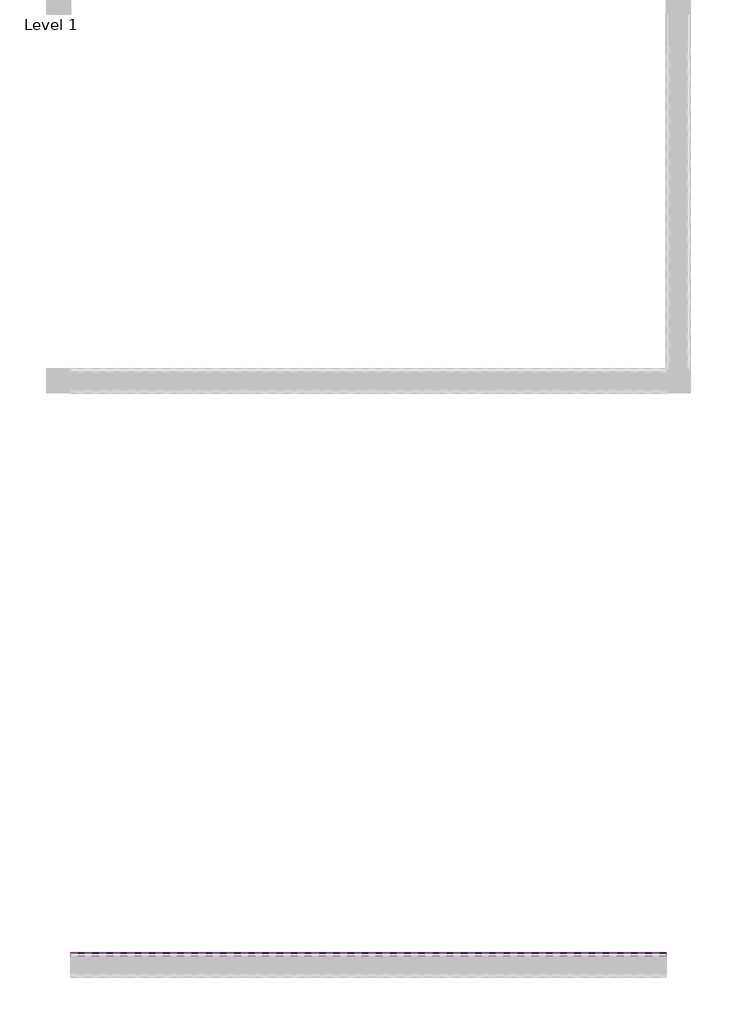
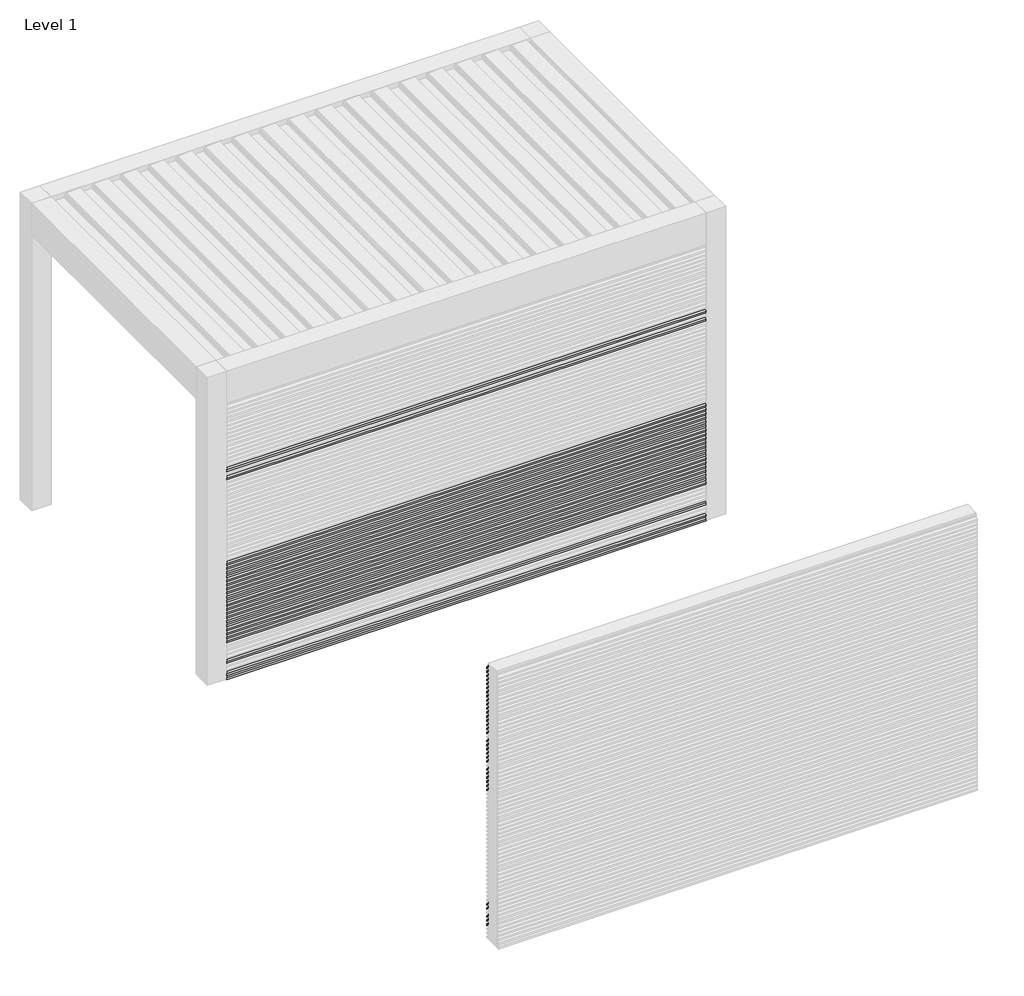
# One storey, part 64 of 69: 85 proxies.
"""IFC4 building model written with IfcOpenShell, lengths in millimetres."""

from ifc_helpers import new_model, si_unit, frame, origin, place, context, project, spatial, polyline, outline, extrude, element, save

model = new_model("IFC4")

# Units and contexts
model_context = context("Model", 3, world=origin())
ifc_project = project(units=[si_unit("LENGTHUNIT", "METRE", prefix="MILLI")], contexts=[model_context])

# Site, building, storey
site = spatial("IfcSite", under=ifc_project)
building = spatial("IfcBuilding", under=site)
storey = spatial("IfcBuildingStorey", under=building, Name="Level 1", Elevation=0.0)

# Proxies
placement = place(None, origin())
element("IfcBuildingElementProxy", 1, Name="Wall Sweeps", at=placement, inside=storey, context=model_context, shape_type="SweptSolid", body=[
    extrude(outline(polyline([(36045.8955424, 1209.2), (36045.8955424, 1195.7), (36044.6455424, 1196.4216933), (36044.6455424, 1208.4782281), (36025.4955424, 1219.5345698), (36025.4955424, 1233.2), (36026.7455424, 1233.2), (36026.7455424, 1220.2562577), (36045.8955424, 1209.2)])), frame((224550.5749426, 0.0, 0.0), z_axis=(1.0, 0.0, 0.0), x_axis=(0.0, 1.0, 0.0)), (0.0, 0.0, 1.0), 3700.0),
])
element("IfcBuildingElementProxy", 2, Name="Wall Sweeps", at=placement, inside=storey, context=model_context, shape_type="SweptSolid", body=[
    extrude(outline(polyline([(36045.8955424, 1242.5), (36045.8955424, 1229.0), (36044.6455424, 1229.7216933), (36044.6455424, 1241.7782281), (36025.4955424, 1252.8345698), (36025.4955424, 1266.5), (36026.7455424, 1266.5), (36026.7455424, 1253.5562577), (36045.8955424, 1242.5)])), frame((224550.5749426, 0.0, 0.0), z_axis=(1.0, 0.0, 0.0), x_axis=(0.0, 1.0, 0.0)), (0.0, 0.0, 1.0), 3700.0),
])
element("IfcBuildingElementProxy", 3, Name="Wall Sweeps", at=placement, inside=storey, context=model_context, shape_type="SweptSolid", body=[
    extrude(outline(polyline([(36045.8955424, 1275.9), (36045.8955424, 1262.4), (36044.6455424, 1263.1216933), (36044.6455424, 1275.1782281), (36025.4955424, 1286.2345698), (36025.4955424, 1299.9), (36026.7455424, 1299.9), (36026.7455424, 1286.9562577), (36045.8955424, 1275.9)])), frame((224550.5749426, 0.0, 0.0), z_axis=(1.0, 0.0, 0.0), x_axis=(0.0, 1.0, 0.0)), (0.0, 0.0, 1.0), 3700.0),
])
element("IfcBuildingElementProxy", 4, Name="Wall Sweeps", at=placement, inside=storey, context=model_context, shape_type="SweptSolid", body=[
    extrude(outline(polyline([(36045.8955424, 109.3), (36045.8955424, 95.8), (36044.6455424, 96.5216933), (36044.6455424, 108.5782281), (36025.4955424, 119.6345698), (36025.4955424, 133.3), (36026.7455424, 133.3), (36026.7455424, 120.3562577), (36045.8955424, 109.3)])), frame((224550.5749426, 0.0, 0.0), z_axis=(1.0, 0.0, 0.0), x_axis=(0.0, 1.0, 0.0)), (0.0, 0.0, 1.0), 3700.0),
])
element("IfcBuildingElementProxy", 5, Name="Wall Sweeps", at=placement, inside=storey, context=model_context, shape_type="SweptSolid", body=[
    extrude(outline(polyline([(36045.8955424, 1309.2), (36045.8955424, 1295.7), (36044.6455424, 1296.4216933), (36044.6455424, 1308.4782281), (36025.4955424, 1319.5345698), (36025.4955424, 1333.2), (36026.7455424, 1333.2), (36026.7455424, 1320.2562577), (36045.8955424, 1309.2)])), frame((224550.5749426, 0.0, 0.0), z_axis=(1.0, 0.0, 0.0), x_axis=(0.0, 1.0, 0.0)), (0.0, 0.0, 1.0), 3700.0),
])
element("IfcBuildingElementProxy", 6, Name="Wall Sweeps", at=placement, inside=storey, context=model_context, shape_type="SweptSolid", body=[
    extrude(outline(polyline([(36045.8955424, 1342.5), (36045.8955424, 1329.0), (36044.6455424, 1329.7216933), (36044.6455424, 1341.7782281), (36025.4955424, 1352.8345698), (36025.4955424, 1366.5), (36026.7455424, 1366.5), (36026.7455424, 1353.5562577), (36045.8955424, 1342.5)])), frame((224550.5749426, 0.0, 0.0), z_axis=(1.0, 0.0, 0.0), x_axis=(0.0, 1.0, 0.0)), (0.0, 0.0, 1.0), 3700.0),
])
element("IfcBuildingElementProxy", 7, Name="Wall Sweeps", at=placement, inside=storey, context=model_context, shape_type="SweptSolid", body=[
    extrude(outline(polyline([(36045.8955424, 1375.9), (36045.8955424, 1362.4), (36044.6455424, 1363.1216933), (36044.6455424, 1375.1782281), (36025.4955424, 1386.2345698), (36025.4955424, 1399.9), (36026.7455424, 1399.9), (36026.7455424, 1386.9562577), (36045.8955424, 1375.9)])), frame((224550.5749426, 0.0, 0.0), z_axis=(1.0, 0.0, 0.0), x_axis=(0.0, 1.0, 0.0)), (0.0, 0.0, 1.0), 3700.0),
])
element("IfcBuildingElementProxy", 8, Name="Wall Sweeps", at=placement, inside=storey, context=model_context, shape_type="SweptSolid", body=[
    extrude(outline(polyline([(36045.8955424, 1442.5), (36045.8955424, 1429.0), (36044.6455424, 1429.7216933), (36044.6455424, 1441.7782281), (36025.4955424, 1452.8345698), (36025.4955424, 1466.5), (36026.7455424, 1466.5), (36026.7455424, 1453.5562577), (36045.8955424, 1442.5)])), frame((224550.5749426, 0.0, 0.0), z_axis=(1.0, 0.0, 0.0), x_axis=(0.0, 1.0, 0.0)), (0.0, 0.0, 1.0), 3700.0),
])
element("IfcBuildingElementProxy", 9, Name="Wall Sweeps", at=placement, inside=storey, context=model_context, shape_type="SweptSolid", body=[
    extrude(outline(polyline([(36045.8955424, 1474.5), (36045.8955424, 1461.0), (36044.6455424, 1461.7216933), (36044.6455424, 1473.7782281), (36025.4955424, 1484.8345698), (36025.4955424, 1498.5), (36026.7455424, 1498.5), (36026.7455424, 1485.5562577), (36045.8955424, 1474.5)])), frame((224550.5749426, 0.0, 0.0), z_axis=(1.0, 0.0, 0.0), x_axis=(0.0, 1.0, 0.0)), (0.0, 0.0, 1.0), 3700.0),
])
element("IfcBuildingElementProxy", 10, Name="Wall Sweeps", at=placement, inside=storey, context=model_context, shape_type="SweptSolid", body=[
    extrude(outline(polyline([(36045.8955424, 1507.8), (36045.8955424, 1494.3), (36044.6455424, 1495.0216933), (36044.6455424, 1507.0782281), (36025.4955424, 1518.1345698), (36025.4955424, 1531.8), (36026.7455424, 1531.8), (36026.7455424, 1518.8562577), (36045.8955424, 1507.8)])), frame((224550.5749426, 0.0, 0.0), z_axis=(1.0, 0.0, 0.0), x_axis=(0.0, 1.0, 0.0)), (0.0, 0.0, 1.0), 3700.0),
])
element("IfcBuildingElementProxy", 11, Name="Wall Sweeps", at=placement, inside=storey, context=model_context, shape_type="SweptSolid", body=[
    extrude(outline(polyline([(36045.8955424, 1541.1), (36045.8955424, 1527.6), (36044.6455424, 1528.3216933), (36044.6455424, 1540.3782281), (36025.4955424, 1551.4345698), (36025.4955424, 1565.1), (36026.7455424, 1565.1), (36026.7455424, 1552.1562577), (36045.8955424, 1541.1)])), frame((224550.5749426, 0.0, 0.0), z_axis=(1.0, 0.0, 0.0), x_axis=(0.0, 1.0, 0.0)), (0.0, 0.0, 1.0), 3700.0),
])
element("IfcBuildingElementProxy", 12, Name="Wall Sweeps", at=placement, inside=storey, context=model_context, shape_type="SweptSolid", body=[
    extrude(outline(polyline([(36045.8955424, 1574.4), (36045.8955424, 1560.9), (36044.6455424, 1561.6216933), (36044.6455424, 1573.6782281), (36025.4955424, 1584.7345698), (36025.4955424, 1598.4), (36026.7455424, 1598.4), (36026.7455424, 1585.4562577), (36045.8955424, 1574.4)])), frame((224550.5749426, 0.0, 0.0), z_axis=(1.0, 0.0, 0.0), x_axis=(0.0, 1.0, 0.0)), (0.0, 0.0, 1.0), 3700.0),
])
element("IfcBuildingElementProxy", 13, Name="Wall Sweeps", at=placement, inside=storey, context=model_context, shape_type="SweptSolid", body=[
    extrude(outline(polyline([(36045.8955424, 1607.7), (36045.8955424, 1594.2), (36044.6455424, 1594.9216933), (36044.6455424, 1606.9782281), (36025.4955424, 1618.0345698), (36025.4955424, 1631.7), (36026.7455424, 1631.7), (36026.7455424, 1618.7562577), (36045.8955424, 1607.7)])), frame((224550.5749426, 0.0, 0.0), z_axis=(1.0, 0.0, 0.0), x_axis=(0.0, 1.0, 0.0)), (0.0, 0.0, 1.0), 3700.0),
])
element("IfcBuildingElementProxy", 14, Name="Wall Sweeps", at=placement, inside=storey, context=model_context, shape_type="SweptSolid", body=[
    extrude(outline(polyline([(36045.8955424, 142.7), (36045.8955424, 129.2), (36044.6455424, 129.9216933), (36044.6455424, 141.9782281), (36025.4955424, 153.0345698), (36025.4955424, 166.7), (36026.7455424, 166.7), (36026.7455424, 153.7562577), (36045.8955424, 142.7)])), frame((224550.5749426, 0.0, 0.0), z_axis=(1.0, 0.0, 0.0), x_axis=(0.0, 1.0, 0.0)), (0.0, 0.0, 1.0), 3700.0),
])
element("IfcBuildingElementProxy", 15, Name="Wall Sweeps", at=placement, inside=storey, context=model_context, shape_type="SweptSolid", body=[
    extrude(outline(polyline([(36045.8955424, 1674.3), (36045.8955424, 1660.8), (36044.6455424, 1661.5216933), (36044.6455424, 1673.5782281), (36025.4955424, 1684.6345698), (36025.4955424, 1698.3), (36026.7455424, 1698.3), (36026.7455424, 1685.3562577), (36045.8955424, 1674.3)])), frame((224550.5749426, 0.0, 0.0), z_axis=(1.0, 0.0, 0.0), x_axis=(0.0, 1.0, 0.0)), (0.0, 0.0, 1.0), 3700.0),
])
element("IfcBuildingElementProxy", 16, Name="Wall Sweeps", at=placement, inside=storey, context=model_context, shape_type="SweptSolid", body=[
    extrude(outline(polyline([(36045.8955424, 1707.7), (36045.8955424, 1694.2), (36044.6455424, 1694.9216933), (36044.6455424, 1706.9782281), (36025.4955424, 1718.0345698), (36025.4955424, 1731.7), (36026.7455424, 1731.7), (36026.7455424, 1718.7562577), (36045.8955424, 1707.7)])), frame((224550.5749426, 0.0, 0.0), z_axis=(1.0, 0.0, 0.0), x_axis=(0.0, 1.0, 0.0)), (0.0, 0.0, 1.0), 3700.0),
])
element("IfcBuildingElementProxy", 17, Name="Wall Sweeps", at=placement, inside=storey, context=model_context, shape_type="SweptSolid", body=[
    extrude(outline(polyline([(36045.8955424, 1740.9), (36045.8955424, 1727.4), (36044.6455424, 1728.1216933), (36044.6455424, 1740.1782281), (36025.4955424, 1751.2345698), (36025.4955424, 1764.9), (36026.7455424, 1764.9), (36026.7455424, 1751.9562577), (36045.8955424, 1740.9)])), frame((224550.5749426, 0.0, 0.0), z_axis=(1.0, 0.0, 0.0), x_axis=(0.0, 1.0, 0.0)), (0.0, 0.0, 1.0), 3700.0),
])
element("IfcBuildingElementProxy", 18, Name="Wall Sweeps", at=placement, inside=storey, context=model_context, shape_type="SweptSolid", body=[
    extrude(outline(polyline([(36045.8955424, 1774.2), (36045.8955424, 1760.7), (36044.6455424, 1761.4216933), (36044.6455424, 1773.4782281), (36025.4955424, 1784.5345698), (36025.4955424, 1798.2), (36026.7455424, 1798.2), (36026.7455424, 1785.2562577), (36045.8955424, 1774.2)])), frame((224550.5749426, 0.0, 0.0), z_axis=(1.0, 0.0, 0.0), x_axis=(0.0, 1.0, 0.0)), (0.0, 0.0, 1.0), 3700.0),
])
element("IfcBuildingElementProxy", 19, Name="Wall Sweeps", at=placement, inside=storey, context=model_context, shape_type="SweptSolid", body=[
    extrude(outline(polyline([(36045.8955424, 1807.5), (36045.8955424, 1794.0), (36044.6455424, 1794.7216933), (36044.6455424, 1806.7782281), (36025.4955424, 1817.8345698), (36025.4955424, 1831.5), (36026.7455424, 1831.5), (36026.7455424, 1818.5562577), (36045.8955424, 1807.5)])), frame((224550.5749426, 0.0, 0.0), z_axis=(1.0, 0.0, 0.0), x_axis=(0.0, 1.0, 0.0)), (0.0, 0.0, 1.0), 3700.0),
])
element("IfcBuildingElementProxy", 20, Name="Wall Sweeps", at=placement, inside=storey, context=model_context, shape_type="SweptSolid", body=[
    extrude(outline(polyline([(36045.8955424, 1840.8), (36045.8955424, 1827.3), (36044.6455424, 1828.0216933), (36044.6455424, 1840.0782281), (36025.4955424, 1851.1345698), (36025.4955424, 1864.8), (36026.7455424, 1864.8), (36026.7455424, 1851.8562577), (36045.8955424, 1840.8)])), frame((224550.5749426, 0.0, 0.0), z_axis=(1.0, 0.0, 0.0), x_axis=(0.0, 1.0, 0.0)), (0.0, 0.0, 1.0), 3700.0),
])
element("IfcBuildingElementProxy", 21, Name="Wall Sweeps", at=placement, inside=storey, context=model_context, shape_type="SweptSolid", body=[
    extrude(outline(polyline([(36045.8955424, 1874.1), (36045.8955424, 1860.6), (36044.6455424, 1861.3216933), (36044.6455424, 1873.3782281), (36025.4955424, 1884.4345698), (36025.4955424, 1898.1), (36026.7455424, 1898.1), (36026.7455424, 1885.1562577), (36045.8955424, 1874.1)])), frame((224550.5749426, 0.0, 0.0), z_axis=(1.0, 0.0, 0.0), x_axis=(0.0, 1.0, 0.0)), (0.0, 0.0, 1.0), 3700.0),
])
element("IfcBuildingElementProxy", 22, Name="Wall Sweeps", at=placement, inside=storey, context=model_context, shape_type="SweptSolid", body=[
    extrude(outline(polyline([(36045.8955424, 1907.4), (36045.8955424, 1893.9), (36044.6455424, 1894.6216933), (36044.6455424, 1906.6782281), (36025.4955424, 1917.7345698), (36025.4955424, 1931.4), (36026.7455424, 1931.4), (36026.7455424, 1918.4562577), (36045.8955424, 1907.4)])), frame((224550.5749426, 0.0, 0.0), z_axis=(1.0, 0.0, 0.0), x_axis=(0.0, 1.0, 0.0)), (0.0, 0.0, 1.0), 3700.0),
])
element("IfcBuildingElementProxy", 23, Name="Wall Sweeps", at=placement, inside=storey, context=model_context, shape_type="SweptSolid", body=[
    extrude(outline(polyline([(36044.8955424, 1940.7), (36044.8955424, 1927.2), (36043.6455424, 1927.9216933), (36043.6455424, 1939.9782281), (36024.4955424, 1951.0345698), (36024.4955424, 1964.7), (36025.7455424, 1964.7), (36025.7455424, 1951.7562577), (36044.8955424, 1940.7)])), frame((224550.5749426, 0.0, 0.0), z_axis=(1.0, 0.0, 0.0), x_axis=(0.0, 1.0, 0.0)), (0.0, 0.0, 1.0), 3700.0),
])
element("IfcBuildingElementProxy", 24, Name="Wall Sweeps", at=placement, inside=storey, context=model_context, shape_type="SweptSolid", body=[
    extrude(outline(polyline([(36045.8955424, 1974.0), (36045.8955424, 1960.5), (36044.6455424, 1961.2216933), (36044.6455424, 1973.2782281), (36025.4955424, 1984.3345698), (36025.4955424, 1998.0), (36026.7455424, 1998.0), (36026.7455424, 1985.0562577), (36045.8955424, 1974.0)])), frame((224550.5749426, 0.0, 0.0), z_axis=(1.0, 0.0, 0.0), x_axis=(0.0, 1.0, 0.0)), (0.0, 0.0, 1.0), 3700.0),
])
element("IfcBuildingElementProxy", 25, Name="Wall Sweeps", at=placement, inside=storey, context=model_context, shape_type="SweptSolid", body=[
    extrude(outline(polyline([(36045.8955424, 176.0), (36045.8955424, 162.5), (36044.6455424, 163.2216933), (36044.6455424, 175.2782281), (36025.4955424, 186.3345698), (36025.4955424, 200.0), (36026.7455424, 200.0), (36026.7455424, 187.0562577), (36045.8955424, 176.0)])), frame((224550.5749426, 0.0, 0.0), z_axis=(1.0, 0.0, 0.0), x_axis=(0.0, 1.0, 0.0)), (0.0, 0.0, 1.0), 3700.0),
])
element("IfcBuildingElementProxy", 26, Name="Wall Sweeps", at=placement, inside=storey, context=model_context, shape_type="SweptSolid", body=[
    extrude(outline(polyline([(36045.8955424, 2007.3), (36045.8955424, 1993.8), (36044.6455424, 1994.5216933), (36044.6455424, 2006.5782281), (36025.4955424, 2017.6345698), (36025.4955424, 2031.3), (36026.7455424, 2031.3), (36026.7455424, 2018.3562577), (36045.8955424, 2007.3)])), frame((224550.5749426, 0.0, 0.0), z_axis=(1.0, 0.0, 0.0), x_axis=(0.0, 1.0, 0.0)), (0.0, 0.0, 1.0), 3700.0),
])
element("IfcBuildingElementProxy", 27, Name="Wall Sweeps", at=placement, inside=storey, context=model_context, shape_type="SweptSolid", body=[
    extrude(outline(polyline([(36045.8955424, 2040.6), (36045.8955424, 2027.1), (36044.6455424, 2027.8216933), (36044.6455424, 2039.8782281), (36025.4955424, 2050.9345698), (36025.4955424, 2064.6), (36026.7455424, 2064.6), (36026.7455424, 2051.6562577), (36045.8955424, 2040.6)])), frame((224550.5749426, 0.0, 0.0), z_axis=(1.0, 0.0, 0.0), x_axis=(0.0, 1.0, 0.0)), (0.0, 0.0, 1.0), 3700.0),
])
element("IfcBuildingElementProxy", 28, Name="Wall Sweeps", at=placement, inside=storey, context=model_context, shape_type="SweptSolid", body=[
    extrude(outline(polyline([(36045.8955424, 2073.9), (36045.8955424, 2060.4), (36044.6455424, 2061.1216933), (36044.6455424, 2073.1782281), (36025.4955424, 2084.2345698), (36025.4955424, 2097.9), (36026.7455424, 2097.9), (36026.7455424, 2084.9562577), (36045.8955424, 2073.9)])), frame((224550.5749426, 0.0, 0.0), z_axis=(1.0, 0.0, 0.0), x_axis=(0.0, 1.0, 0.0)), (0.0, 0.0, 1.0), 3700.0),
])
element("IfcBuildingElementProxy", 29, Name="Wall Sweeps", at=placement, inside=storey, context=model_context, shape_type="SweptSolid", body=[
    extrude(outline(polyline([(36045.8955424, 2107.2), (36045.8955424, 2093.7), (36044.6455424, 2094.4216933), (36044.6455424, 2106.4782281), (36025.4955424, 2117.5345698), (36025.4955424, 2131.2), (36026.7455424, 2131.2), (36026.7455424, 2118.2562577), (36045.8955424, 2107.2)])), frame((224550.5749426, 0.0, 0.0), z_axis=(1.0, 0.0, 0.0), x_axis=(0.0, 1.0, 0.0)), (0.0, 0.0, 1.0), 3700.0),
])
element("IfcBuildingElementProxy", 30, Name="Wall Sweeps", at=placement, inside=storey, context=model_context, shape_type="SweptSolid", body=[
    extrude(outline(polyline([(36045.8955424, 2140.5), (36045.8955424, 2127.0), (36044.6455424, 2127.7216933), (36044.6455424, 2139.7782281), (36025.4955424, 2150.8345698), (36025.4955424, 2164.5), (36026.7455424, 2164.5), (36026.7455424, 2151.5562577), (36045.8955424, 2140.5)])), frame((224550.5749426, 0.0, 0.0), z_axis=(1.0, 0.0, 0.0), x_axis=(0.0, 1.0, 0.0)), (0.0, 0.0, 1.0), 3700.0),
])
element("IfcBuildingElementProxy", 31, Name="Wall Sweeps", at=placement, inside=storey, context=model_context, shape_type="SweptSolid", body=[
    extrude(outline(polyline([(36045.8955424, 2173.8), (36045.8955424, 2160.3), (36044.6455424, 2161.0216933), (36044.6455424, 2173.0782281), (36025.4955424, 2184.1345698), (36025.4955424, 2197.8), (36026.7455424, 2197.8), (36026.7455424, 2184.8562577), (36045.8955424, 2173.8)])), frame((224550.5749426, 0.0, 0.0), z_axis=(1.0, 0.0, 0.0), x_axis=(0.0, 1.0, 0.0)), (0.0, 0.0, 1.0), 3700.0),
])
element("IfcBuildingElementProxy", 32, Name="Wall Sweeps", at=placement, inside=storey, context=model_context, shape_type="SweptSolid", body=[
    extrude(outline(polyline([(36045.8955424, 2207.1), (36045.8955424, 2193.6), (36044.6455424, 2194.3216933), (36044.6455424, 2206.3782281), (36025.4955424, 2217.4345698), (36025.4955424, 2231.1), (36026.7455424, 2231.1), (36026.7455424, 2218.1562577), (36045.8955424, 2207.1)])), frame((224550.5749426, 0.0, 0.0), z_axis=(1.0, 0.0, 0.0), x_axis=(0.0, 1.0, 0.0)), (0.0, 0.0, 1.0), 3700.0),
])
element("IfcBuildingElementProxy", 33, Name="Wall Sweeps", at=placement, inside=storey, context=model_context, shape_type="SweptSolid", body=[
    extrude(outline(polyline([(36045.8955424, 242.6), (36045.8955424, 229.1), (36044.6455424, 229.8216933), (36044.6455424, 241.8782281), (36025.4955424, 252.9345698), (36025.4955424, 266.6), (36026.7455424, 266.6), (36026.7455424, 253.6562577), (36045.8955424, 242.6)])), frame((224550.5749426, 0.0, 0.0), z_axis=(1.0, 0.0, 0.0), x_axis=(0.0, 1.0, 0.0)), (0.0, 0.0, 1.0), 3700.0),
])
element("IfcBuildingElementProxy", 34, Name="Wall Sweeps", at=placement, inside=storey, context=model_context, shape_type="SweptSolid", body=[
    extrude(outline(polyline([(36045.8955424, 276.0), (36045.8955424, 262.5), (36044.6455424, 263.2216933), (36044.6455424, 275.2782281), (36025.4955424, 286.3345698), (36025.4955424, 300.0), (36026.7455424, 300.0), (36026.7455424, 287.0562577), (36045.8955424, 276.0)])), frame((224550.5749426, 0.0, 0.0), z_axis=(1.0, 0.0, 0.0), x_axis=(0.0, 1.0, 0.0)), (0.0, 0.0, 1.0), 3700.0),
])
element("IfcBuildingElementProxy", 35, Name="Wall Sweeps", at=placement, inside=storey, context=model_context, shape_type="SweptSolid", body=[
    extrude(outline(polyline([(39672.5593685, 309.3), (39672.5593685, 295.8), (39671.3093685, 296.5216933), (39671.3093685, 308.5782281), (39652.1593685, 319.6345698), (39652.1593685, 333.3), (39653.4093685, 333.3), (39653.4093685, 320.3562577), (39672.5593685, 309.3)])), frame((224550.5749426, 0.0, 0.0), z_axis=(1.0, 0.0, 0.0), x_axis=(0.0, 1.0, 0.0)), (0.0, 0.0, 1.0), 3700.0),
])
element("IfcBuildingElementProxy", 36, Name="Wall Sweeps", at=placement, inside=storey, context=model_context, shape_type="SweptSolid", body=[
    extrude(outline(polyline([(39520.7593685, 741.9), (39539.9093685, 752.9562577), (39539.9093685, 765.9), (39541.1593685, 765.9), (39541.1593685, 752.2345698), (39522.0093685, 741.1782281), (39522.0093685, 729.1216933), (39520.7593685, 728.4), (39520.7593685, 741.9)])), frame((224550.5749426, 0.0, 0.0), z_axis=(1.0, 0.0, 0.0), x_axis=(0.0, 1.0, 0.0)), (0.0, 0.0, 1.0), 3700.0),
])
element("IfcBuildingElementProxy", 37, Name="Wall Sweeps", at=placement, inside=storey, context=model_context, shape_type="SweptSolid", body=[
    extrude(outline(polyline([(39520.7593685, 808.5), (39539.9093685, 819.5562577), (39539.9093685, 832.5), (39541.1593685, 832.5), (39541.1593685, 818.8345698), (39522.0093685, 807.7782281), (39522.0093685, 795.7216933), (39520.7593685, 795.0), (39520.7593685, 808.5)])), frame((224550.5749426, 0.0, 0.0), z_axis=(1.0, 0.0, 0.0), x_axis=(0.0, 1.0, 0.0)), (0.0, 0.0, 1.0), 3700.0),
])
element("IfcBuildingElementProxy", 38, Name="Wall Sweeps", at=placement, inside=storey, context=model_context, shape_type="SweptSolid", body=[
    extrude(outline(polyline([(39520.7593685, 875.1), (39539.9093685, 886.1562577), (39539.9093685, 899.1), (39541.1593685, 899.1), (39541.1593685, 885.4345698), (39522.0093685, 874.3782281), (39522.0093685, 862.3216933), (39520.7593685, 861.6), (39520.7593685, 875.1)])), frame((224550.5749426, 0.0, 0.0), z_axis=(1.0, 0.0, 0.0), x_axis=(0.0, 1.0, 0.0)), (0.0, 0.0, 1.0), 3700.0),
])
element("IfcBuildingElementProxy", 39, Name="Wall Sweeps", at=placement, inside=storey, context=model_context, shape_type="SweptSolid", body=[
    extrude(outline(polyline([(39672.5593685, 1075.9), (39672.5593685, 1062.4), (39671.3093685, 1063.1216933), (39671.3093685, 1075.1782281), (39652.1593685, 1086.2345698), (39652.1593685, 1099.9), (39653.4093685, 1099.9), (39653.4093685, 1086.9562577), (39672.5593685, 1075.9)])), frame((224550.5749426, 0.0, 0.0), z_axis=(1.0, 0.0, 0.0), x_axis=(0.0, 1.0, 0.0)), (0.0, 0.0, 1.0), 3700.0),
])
element("IfcBuildingElementProxy", 40, Name="Wall Sweeps", at=placement, inside=storey, context=model_context, shape_type="SweptSolid", body=[
    extrude(outline(polyline([(39672.5593685, 1409.2), (39672.5593685, 1395.7), (39671.3093685, 1396.4216933), (39671.3093685, 1408.4782281), (39652.1593685, 1419.5345698), (39652.1593685, 1433.2), (39653.4093685, 1433.2), (39653.4093685, 1420.2562577), (39672.5593685, 1409.2)])), frame((224550.5749426, 0.0, 0.0), z_axis=(1.0, 0.0, 0.0), x_axis=(0.0, 1.0, 0.0)), (0.0, 0.0, 1.0), 3700.0),
])
element("IfcBuildingElementProxy", 41, Name="Wall Sweeps", at=placement, inside=storey, context=model_context, shape_type="SweptSolid", body=[
    extrude(outline(polyline([(39520.7593685, 1641.0), (39539.9093685, 1652.0562577), (39539.9093685, 1665.0), (39541.1593685, 1665.0), (39541.1593685, 1651.3345698), (39522.0093685, 1640.2782281), (39522.0093685, 1628.2216933), (39520.7593685, 1627.5), (39520.7593685, 1641.0)])), frame((224550.5749426, 0.0, 0.0), z_axis=(1.0, 0.0, 0.0), x_axis=(0.0, 1.0, 0.0)), (0.0, 0.0, 1.0), 3700.0),
])
element("IfcBuildingElementProxy", 42, Name="Wall Sweeps", at=placement, inside=storey, context=model_context, shape_type="SweptSolid", body=[
    extrude(outline(polyline([(39520.7593685, 142.5), (39539.9093685, 153.5562577), (39539.9093685, 166.5), (39541.1593685, 166.5), (39541.1593685, 152.8345698), (39522.0093685, 141.7782281), (39522.0093685, 129.7216933), (39520.7593685, 129.0), (39520.7593685, 142.5)])), frame((224550.5749426, 0.0, 0.0), z_axis=(1.0, 0.0, 0.0), x_axis=(0.0, 1.0, 0.0)), (0.0, 0.0, 1.0), 3700.0),
])
element("IfcBuildingElementProxy", 43, Name="Wall Sweeps", at=placement, inside=storey, context=model_context, shape_type="SweptSolid", body=[
    extrude(outline(polyline([(39672.5593685, 1641.0), (39672.5593685, 1627.5), (39671.3093685, 1628.2216933), (39671.3093685, 1640.2782281), (39652.1593685, 1651.3345698), (39652.1593685, 1665.0), (39653.4093685, 1665.0), (39653.4093685, 1652.0562577), (39672.5593685, 1641.0)])), frame((224550.5749426, 0.0, 0.0), z_axis=(1.0, 0.0, 0.0), x_axis=(0.0, 1.0, 0.0)), (0.0, 0.0, 1.0), 3700.0),
])
element("IfcBuildingElementProxy", 44, Name="Wall Sweeps", at=placement, inside=storey, context=model_context, shape_type="SweptSolid", body=[
    extrude(outline(polyline([(39520.7593685, 1707.6), (39539.9093685, 1718.6562577), (39539.9093685, 1731.6), (39541.1593685, 1731.6), (39541.1593685, 1717.9345698), (39522.0093685, 1706.8782281), (39522.0093685, 1694.8216933), (39520.7593685, 1694.1), (39520.7593685, 1707.6)])), frame((224550.5749426, 0.0, 0.0), z_axis=(1.0, 0.0, 0.0), x_axis=(0.0, 1.0, 0.0)), (0.0, 0.0, 1.0), 3700.0),
])
element("IfcBuildingElementProxy", 45, Name="Wall Sweeps", at=placement, inside=storey, context=model_context, shape_type="SweptSolid", body=[
    extrude(outline(polyline([(39672.5593685, 209.3), (39672.5593685, 195.8), (39671.3093685, 196.5216933), (39671.3093685, 208.5782281), (39652.1593685, 219.6345698), (39652.1593685, 233.3), (39653.4093685, 233.3), (39653.4093685, 220.3562577), (39672.5593685, 209.3)])), frame((224550.5749426, 0.0, 0.0), z_axis=(1.0, 0.0, 0.0), x_axis=(0.0, 1.0, 0.0)), (0.0, 0.0, 1.0), 3700.0),
])
element("IfcBuildingElementProxy", 46, Name="Wall Sweeps", at=placement, inside=storey, context=model_context, shape_type="SweptSolid", body=[
    extrude(outline(polyline([(39520.7593685, 309.0), (39539.9093685, 320.0562577), (39539.9093685, 333.0), (39541.1593685, 333.0), (39541.1593685, 319.3345698), (39522.0093685, 308.2782281), (39522.0093685, 296.2216933), (39520.7593685, 295.5), (39520.7593685, 309.0)])), frame((224550.5749426, 0.0, 0.0), z_axis=(1.0, 0.0, 0.0), x_axis=(0.0, 1.0, 0.0)), (0.0, 0.0, 1.0), 3700.0),
])
element("IfcBuildingElementProxy", 47, Name="Wall Sweeps", at=placement, inside=storey, context=model_context, shape_type="SweptSolid", body=[
    extrude(outline(polyline([(39520.7593685, 9.3), (39539.9093685, 20.3562577), (39539.9093685, 33.3), (39541.1593685, 33.3), (39541.1593685, 19.6345698), (39522.0093685, 8.5782281), (39522.0093685, -3.4783067), (39520.7593685, -4.2), (39520.7593685, 9.3)])), frame((224550.5749426, 0.0, 0.0), z_axis=(1.0, 0.0, 0.0), x_axis=(0.0, 1.0, 0.0)), (0.0, 0.0, 1.0), 3700.0),
])
element("IfcBuildingElementProxy", 48, Name="Wall Sweeps", at=placement, inside=storey, context=model_context, shape_type="SweptSolid", body=[
    extrude(outline(polyline([(39672.5593685, 9.3), (39672.5593685, -4.2), (39671.3093685, -3.4783067), (39671.3093685, 8.5782281), (39652.1593685, 19.6345698), (39652.1593685, 33.3), (39653.4093685, 33.3), (39653.4093685, 20.3562577), (39672.5593685, 9.3)])), frame((224550.5749426, 0.0, 0.0), z_axis=(1.0, 0.0, 0.0), x_axis=(0.0, 1.0, 0.0)), (0.0, 0.0, 1.0), 3700.0),
])
element("IfcBuildingElementProxy", 49, Name="Wall Sweeps", at=placement, inside=storey, context=model_context, shape_type="SweptSolid", body=[
    extrude(outline(polyline([(39520.7593685, 342.3), (39539.9093685, 353.3562577), (39539.9093685, 366.3), (39541.1593685, 366.3), (39541.1593685, 352.6345698), (39522.0093685, 341.5782281), (39522.0093685, 329.5216933), (39520.7593685, 328.8), (39520.7593685, 342.3)])), frame((224550.5749426, 0.0, 0.0), z_axis=(1.0, 0.0, 0.0), x_axis=(0.0, 1.0, 0.0)), (0.0, 0.0, 1.0), 3700.0),
])
element("IfcBuildingElementProxy", 50, Name="Wall Sweeps", at=placement, inside=storey, context=model_context, shape_type="SweptSolid", body=[
    extrude(outline(polyline([(39672.5593685, 342.6), (39672.5593685, 329.1), (39671.3093685, 329.8216933), (39671.3093685, 341.8782281), (39652.1593685, 352.9345698), (39652.1593685, 366.6), (39653.4093685, 366.6), (39653.4093685, 353.6562577), (39672.5593685, 342.6)])), frame((224550.5749426, 0.0, 0.0), z_axis=(1.0, 0.0, 0.0), x_axis=(0.0, 1.0, 0.0)), (0.0, 0.0, 1.0), 3700.0),
])
element("IfcBuildingElementProxy", 51, Name="Wall Sweeps", at=placement, inside=storey, context=model_context, shape_type="SweptSolid", body=[
    extrude(outline(polyline([(39520.7593685, 375.6), (39539.9093685, 386.6562577), (39539.9093685, 399.6), (39541.1593685, 399.6), (39541.1593685, 385.9345698), (39522.0093685, 374.8782281), (39522.0093685, 362.8216933), (39520.7593685, 362.1), (39520.7593685, 375.6)])), frame((224550.5749426, 0.0, 0.0), z_axis=(1.0, 0.0, 0.0), x_axis=(0.0, 1.0, 0.0)), (0.0, 0.0, 1.0), 3700.0),
])
element("IfcBuildingElementProxy", 52, Name="Wall Sweeps", at=placement, inside=storey, context=model_context, shape_type="SweptSolid", body=[
    extrude(outline(polyline([(39672.5593685, 376.0), (39672.5593685, 362.5), (39671.3093685, 363.2216933), (39671.3093685, 375.2782281), (39652.1593685, 386.3345698), (39652.1593685, 400.0), (39653.4093685, 400.0), (39653.4093685, 387.0562577), (39672.5593685, 376.0)])), frame((224550.5749426, 0.0, 0.0), z_axis=(1.0, 0.0, 0.0), x_axis=(0.0, 1.0, 0.0)), (0.0, 0.0, 1.0), 3700.0),
])
element("IfcBuildingElementProxy", 53, Name="Wall Sweeps", at=placement, inside=storey, context=model_context, shape_type="SweptSolid", body=[
    extrude(outline(polyline([(39520.7593685, 408.9), (39539.9093685, 419.9562577), (39539.9093685, 432.9), (39541.1593685, 432.9), (39541.1593685, 419.2345698), (39522.0093685, 408.1782281), (39522.0093685, 396.1216933), (39520.7593685, 395.4), (39520.7593685, 408.9)])), frame((224550.5749426, 0.0, 0.0), z_axis=(1.0, 0.0, 0.0), x_axis=(0.0, 1.0, 0.0)), (0.0, 0.0, 1.0), 3700.0),
])
element("IfcBuildingElementProxy", 54, Name="Wall Sweeps", at=placement, inside=storey, context=model_context, shape_type="SweptSolid", body=[
    extrude(outline(polyline([(39672.5593685, 409.3), (39672.5593685, 395.8), (39671.3093685, 396.5216933), (39671.3093685, 408.5782281), (39652.1593685, 419.6345698), (39652.1593685, 433.3), (39653.4093685, 433.3), (39653.4093685, 420.3562577), (39672.5593685, 409.3)])), frame((224550.5749426, 0.0, 0.0), z_axis=(1.0, 0.0, 0.0), x_axis=(0.0, 1.0, 0.0)), (0.0, 0.0, 1.0), 3700.0),
])
element("IfcBuildingElementProxy", 55, Name="Wall Sweeps", at=placement, inside=storey, context=model_context, shape_type="SweptSolid", body=[
    extrude(outline(polyline([(39520.7593685, 442.2), (39539.9093685, 453.2562577), (39539.9093685, 466.2), (39541.1593685, 466.2), (39541.1593685, 452.5345698), (39522.0093685, 441.4782281), (39522.0093685, 429.4216933), (39520.7593685, 428.7), (39520.7593685, 442.2)])), frame((224550.5749426, 0.0, 0.0), z_axis=(1.0, 0.0, 0.0), x_axis=(0.0, 1.0, 0.0)), (0.0, 0.0, 1.0), 3700.0),
])
element("IfcBuildingElementProxy", 56, Name="Wall Sweeps", at=placement, inside=storey, context=model_context, shape_type="SweptSolid", body=[
    extrude(outline(polyline([(39672.5593685, 442.6), (39672.5593685, 429.1), (39671.3093685, 429.8216933), (39671.3093685, 441.8782281), (39652.1593685, 452.9345698), (39652.1593685, 466.6), (39653.4093685, 466.6), (39653.4093685, 453.6562577), (39672.5593685, 442.6)])), frame((224550.5749426, 0.0, 0.0), z_axis=(1.0, 0.0, 0.0), x_axis=(0.0, 1.0, 0.0)), (0.0, 0.0, 1.0), 3700.0),
])
element("IfcBuildingElementProxy", 57, Name="Wall Sweeps", at=placement, inside=storey, context=model_context, shape_type="SweptSolid", body=[
    extrude(outline(polyline([(39520.7593685, 475.5), (39539.9093685, 486.5562577), (39539.9093685, 499.5), (39541.1593685, 499.5), (39541.1593685, 485.8345698), (39522.0093685, 474.7782281), (39522.0093685, 462.7216933), (39520.7593685, 462.0), (39520.7593685, 475.5)])), frame((224550.5749426, 0.0, 0.0), z_axis=(1.0, 0.0, 0.0), x_axis=(0.0, 1.0, 0.0)), (0.0, 0.0, 1.0), 3700.0),
])
element("IfcBuildingElementProxy", 58, Name="Wall Sweeps", at=placement, inside=storey, context=model_context, shape_type="SweptSolid", body=[
    extrude(outline(polyline([(39672.5593685, 476.0), (39672.5593685, 462.5), (39671.3093685, 463.2216933), (39671.3093685, 475.2782281), (39652.1593685, 486.3345698), (39652.1593685, 500.0), (39653.4093685, 500.0), (39653.4093685, 487.0562577), (39672.5593685, 476.0)])), frame((224550.5749426, 0.0, 0.0), z_axis=(1.0, 0.0, 0.0), x_axis=(0.0, 1.0, 0.0)), (0.0, 0.0, 1.0), 3700.0),
])
element("IfcBuildingElementProxy", 59, Name="Wall Sweeps", at=placement, inside=storey, context=model_context, shape_type="SweptSolid", body=[
    extrude(outline(polyline([(39520.7593685, 508.8), (39539.9093685, 519.8562577), (39539.9093685, 532.8), (39541.1593685, 532.8), (39541.1593685, 519.1345698), (39522.0093685, 508.0782281), (39522.0093685, 496.0216933), (39520.7593685, 495.3), (39520.7593685, 508.8)])), frame((224550.5749426, 0.0, 0.0), z_axis=(1.0, 0.0, 0.0), x_axis=(0.0, 1.0, 0.0)), (0.0, 0.0, 1.0), 3700.0),
])
element("IfcBuildingElementProxy", 60, Name="Wall Sweeps", at=placement, inside=storey, context=model_context, shape_type="SweptSolid", body=[
    extrude(outline(polyline([(39672.5593685, 509.3), (39672.5593685, 495.8), (39671.3093685, 496.5216933), (39671.3093685, 508.5782281), (39652.1593685, 519.6345698), (39652.1593685, 533.3), (39653.4093685, 533.3), (39653.4093685, 520.3562577), (39672.5593685, 509.3)])), frame((224550.5749426, 0.0, 0.0), z_axis=(1.0, 0.0, 0.0), x_axis=(0.0, 1.0, 0.0)), (0.0, 0.0, 1.0), 3700.0),
])
element("IfcBuildingElementProxy", 61, Name="Wall Sweeps", at=placement, inside=storey, context=model_context, shape_type="SweptSolid", body=[
    extrude(outline(polyline([(39520.7593685, 542.1), (39539.9093685, 553.1562577), (39539.9093685, 566.1), (39541.1593685, 566.1), (39541.1593685, 552.4345698), (39522.0093685, 541.3782281), (39522.0093685, 529.3216933), (39520.7593685, 528.6), (39520.7593685, 542.1)])), frame((224550.5749426, 0.0, 0.0), z_axis=(1.0, 0.0, 0.0), x_axis=(0.0, 1.0, 0.0)), (0.0, 0.0, 1.0), 3700.0),
])
element("IfcBuildingElementProxy", 62, Name="Wall Sweeps", at=placement, inside=storey, context=model_context, shape_type="SweptSolid", body=[
    extrude(outline(polyline([(39672.5593685, 542.6), (39672.5593685, 529.1), (39671.3093685, 529.8216933), (39671.3093685, 541.8782281), (39652.1593685, 552.9345698), (39652.1593685, 566.6), (39653.4093685, 566.6), (39653.4093685, 553.6562577), (39672.5593685, 542.6)])), frame((224550.5749426, 0.0, 0.0), z_axis=(1.0, 0.0, 0.0), x_axis=(0.0, 1.0, 0.0)), (0.0, 0.0, 1.0), 3700.0),
])
element("IfcBuildingElementProxy", 63, Name="Wall Sweeps", at=placement, inside=storey, context=model_context, shape_type="SweptSolid", body=[
    extrude(outline(polyline([(39520.7593685, 575.4), (39539.9093685, 586.4562577), (39539.9093685, 599.4), (39541.1593685, 599.4), (39541.1593685, 585.7345698), (39522.0093685, 574.6782281), (39522.0093685, 562.6216933), (39520.7593685, 561.9), (39520.7593685, 575.4)])), frame((224550.5749426, 0.0, 0.0), z_axis=(1.0, 0.0, 0.0), x_axis=(0.0, 1.0, 0.0)), (0.0, 0.0, 1.0), 3700.0),
])
element("IfcBuildingElementProxy", 64, Name="Wall Sweeps", at=placement, inside=storey, context=model_context, shape_type="SweptSolid", body=[
    extrude(outline(polyline([(39672.5593685, 575.9), (39672.5593685, 562.4), (39671.3093685, 563.1216933), (39671.3093685, 575.1782281), (39652.1593685, 586.2345698), (39652.1593685, 599.9), (39653.4093685, 599.9), (39653.4093685, 586.9562577), (39672.5593685, 575.9)])), frame((224550.5749426, 0.0, 0.0), z_axis=(1.0, 0.0, 0.0), x_axis=(0.0, 1.0, 0.0)), (0.0, 0.0, 1.0), 3700.0),
])
element("IfcBuildingElementProxy", 65, Name="Wall Sweeps", at=placement, inside=storey, context=model_context, shape_type="SweptSolid", body=[
    extrude(outline(polyline([(39520.7593685, 608.7), (39539.9093685, 619.7562577), (39539.9093685, 632.7), (39541.1593685, 632.7), (39541.1593685, 619.0345698), (39522.0093685, 607.9782281), (39522.0093685, 595.9216933), (39520.7593685, 595.2), (39520.7593685, 608.7)])), frame((224550.5749426, 0.0, 0.0), z_axis=(1.0, 0.0, 0.0), x_axis=(0.0, 1.0, 0.0)), (0.0, 0.0, 1.0), 3700.0),
])
element("IfcBuildingElementProxy", 66, Name="Wall Sweeps", at=placement, inside=storey, context=model_context, shape_type="SweptSolid", body=[
    extrude(outline(polyline([(39672.5593685, 609.3), (39672.5593685, 595.8), (39671.3093685, 596.5216933), (39671.3093685, 608.5782281), (39652.1593685, 619.6345698), (39652.1593685, 633.3), (39653.4093685, 633.3), (39653.4093685, 620.3562577), (39672.5593685, 609.3)])), frame((224550.5749426, 0.0, 0.0), z_axis=(1.0, 0.0, 0.0), x_axis=(0.0, 1.0, 0.0)), (0.0, 0.0, 1.0), 3700.0),
])
element("IfcBuildingElementProxy", 67, Name="Wall Sweeps", at=placement, inside=storey, context=model_context, shape_type="SweptSolid", body=[
    extrude(outline(polyline([(39520.7593685, 642.0), (39539.9093685, 653.0562577), (39539.9093685, 666.0), (39541.1593685, 666.0), (39541.1593685, 652.3345698), (39522.0093685, 641.2782281), (39522.0093685, 629.2216933), (39520.7593685, 628.5), (39520.7593685, 642.0)])), frame((224550.5749426, 0.0, 0.0), z_axis=(1.0, 0.0, 0.0), x_axis=(0.0, 1.0, 0.0)), (0.0, 0.0, 1.0), 3700.0),
])
element("IfcBuildingElementProxy", 68, Name="Wall Sweeps", at=placement, inside=storey, context=model_context, shape_type="SweptSolid", body=[
    extrude(outline(polyline([(39520.7593685, 42.6), (39539.9093685, 53.6562577), (39539.9093685, 66.6), (39541.1593685, 66.6), (39541.1593685, 52.9345698), (39522.0093685, 41.8782281), (39522.0093685, 29.8216933), (39520.7593685, 29.1), (39520.7593685, 42.6)])), frame((224550.5749426, 0.0, 0.0), z_axis=(1.0, 0.0, 0.0), x_axis=(0.0, 1.0, 0.0)), (0.0, 0.0, 1.0), 3700.0),
])
element("IfcBuildingElementProxy", 69, Name="Wall Sweeps", at=placement, inside=storey, context=model_context, shape_type="SweptSolid", body=[
    extrude(outline(polyline([(39672.5593685, 642.6), (39672.5593685, 629.1), (39671.3093685, 629.8216933), (39671.3093685, 641.8782281), (39652.1593685, 652.9345698), (39652.1593685, 666.6), (39653.4093685, 666.6), (39653.4093685, 653.6562577), (39672.5593685, 642.6)])), frame((224550.5749426, 0.0, 0.0), z_axis=(1.0, 0.0, 0.0), x_axis=(0.0, 1.0, 0.0)), (0.0, 0.0, 1.0), 3700.0),
])
element("IfcBuildingElementProxy", 70, Name="Wall Sweeps", at=placement, inside=storey, context=model_context, shape_type="SweptSolid", body=[
    extrude(outline(polyline([(39672.5593685, 42.7), (39672.5593685, 29.2), (39671.3093685, 29.9216933), (39671.3093685, 41.9782281), (39652.1593685, 53.0345698), (39652.1593685, 66.7), (39653.4093685, 66.7), (39653.4093685, 53.7562577), (39672.5593685, 42.7)])), frame((224550.5749426, 0.0, 0.0), z_axis=(1.0, 0.0, 0.0), x_axis=(0.0, 1.0, 0.0)), (0.0, 0.0, 1.0), 3700.0),
])
element("IfcBuildingElementProxy", 71, Name="Wall Sweeps", at=placement, inside=storey, context=model_context, shape_type="SweptSolid", body=[
    extrude(outline(polyline([(39520.7593685, 675.3), (39539.9093685, 686.3562577), (39539.9093685, 699.3), (39541.1593685, 699.3), (39541.1593685, 685.6345698), (39522.0093685, 674.5782281), (39522.0093685, 662.5216933), (39520.7593685, 661.8), (39520.7593685, 675.3)])), frame((224550.5749426, 0.0, 0.0), z_axis=(1.0, 0.0, 0.0), x_axis=(0.0, 1.0, 0.0)), (0.0, 0.0, 1.0), 3700.0),
])
element("IfcBuildingElementProxy", 72, Name="Wall Sweeps", at=placement, inside=storey, context=model_context, shape_type="SweptSolid", body=[
    extrude(outline(polyline([(39672.5593685, 675.9), (39672.5593685, 662.4), (39671.3093685, 663.1216933), (39671.3093685, 675.1782281), (39652.1593685, 686.2345698), (39652.1593685, 699.9), (39653.4093685, 699.9), (39653.4093685, 686.9562577), (39672.5593685, 675.9)])), frame((224550.5749426, 0.0, 0.0), z_axis=(1.0, 0.0, 0.0), x_axis=(0.0, 1.0, 0.0)), (0.0, 0.0, 1.0), 3700.0),
])
element("IfcBuildingElementProxy", 73, Name="Wall Sweeps", at=placement, inside=storey, context=model_context, shape_type="SweptSolid", body=[
    extrude(outline(polyline([(39520.7593685, 708.6), (39539.9093685, 719.6562577), (39539.9093685, 732.6), (39541.1593685, 732.6), (39541.1593685, 718.9345698), (39522.0093685, 707.8782281), (39522.0093685, 695.8216933), (39520.7593685, 695.1), (39520.7593685, 708.6)])), frame((224550.5749426, 0.0, 0.0), z_axis=(1.0, 0.0, 0.0), x_axis=(0.0, 1.0, 0.0)), (0.0, 0.0, 1.0), 3700.0),
])
element("IfcBuildingElementProxy", 74, Name="Wall Sweeps", at=placement, inside=storey, context=model_context, shape_type="SweptSolid", body=[
    extrude(outline(polyline([(39672.5593685, 709.3), (39672.5593685, 695.8), (39671.3093685, 696.5216933), (39671.3093685, 708.5782281), (39652.1593685, 719.6345698), (39652.1593685, 733.3), (39653.4093685, 733.3), (39653.4093685, 720.3562577), (39672.5593685, 709.3)])), frame((224550.5749426, 0.0, 0.0), z_axis=(1.0, 0.0, 0.0), x_axis=(0.0, 1.0, 0.0)), (0.0, 0.0, 1.0), 3700.0),
])
element("IfcBuildingElementProxy", 75, Name="Wall Sweeps", at=placement, inside=storey, context=model_context, shape_type="SweptSolid", body=[
    extrude(outline(polyline([(39672.5593685, 742.6), (39672.5593685, 729.1), (39671.3093685, 729.8216933), (39671.3093685, 741.8782281), (39652.1593685, 752.9345698), (39652.1593685, 766.6), (39653.4093685, 766.6), (39653.4093685, 753.6562577), (39672.5593685, 742.6)])), frame((224550.5749426, 0.0, 0.0), z_axis=(1.0, 0.0, 0.0), x_axis=(0.0, 1.0, 0.0)), (0.0, 0.0, 1.0), 3700.0),
])
element("IfcBuildingElementProxy", 76, Name="Wall Sweeps", at=placement, inside=storey, context=model_context, shape_type="SweptSolid", body=[
    extrude(outline(polyline([(39520.7593685, 775.2), (39539.9093685, 786.2562577), (39539.9093685, 799.2), (39541.1593685, 799.2), (39541.1593685, 785.5345698), (39522.0093685, 774.4782281), (39522.0093685, 762.4216933), (39520.7593685, 761.7), (39520.7593685, 775.2)])), frame((224550.5749426, 0.0, 0.0), z_axis=(1.0, 0.0, 0.0), x_axis=(0.0, 1.0, 0.0)), (0.0, 0.0, 1.0), 3700.0),
])
element("IfcBuildingElementProxy", 77, Name="Wall Sweeps", at=placement, inside=storey, context=model_context, shape_type="SweptSolid", body=[
    extrude(outline(polyline([(39672.5593685, 775.9), (39672.5593685, 762.4), (39671.3093685, 763.1216933), (39671.3093685, 775.1782281), (39652.1593685, 786.2345698), (39652.1593685, 799.9), (39653.4093685, 799.9), (39653.4093685, 786.9562577), (39672.5593685, 775.9)])), frame((224550.5749426, 0.0, 0.0), z_axis=(1.0, 0.0, 0.0), x_axis=(0.0, 1.0, 0.0)), (0.0, 0.0, 1.0), 3700.0),
])
element("IfcBuildingElementProxy", 78, Name="Wall Sweeps", at=placement, inside=storey, context=model_context, shape_type="SweptSolid", body=[
    extrude(outline(polyline([(39672.5593685, 809.3), (39672.5593685, 795.8), (39671.3093685, 796.5216933), (39671.3093685, 808.5782281), (39652.1593685, 819.6345698), (39652.1593685, 833.3), (39653.4093685, 833.3), (39653.4093685, 820.3562577), (39672.5593685, 809.3)])), frame((224550.5749426, 0.0, 0.0), z_axis=(1.0, 0.0, 0.0), x_axis=(0.0, 1.0, 0.0)), (0.0, 0.0, 1.0), 3700.0),
])
element("IfcBuildingElementProxy", 79, Name="Wall Sweeps", at=placement, inside=storey, context=model_context, shape_type="SweptSolid", body=[
    extrude(outline(polyline([(39520.7593685, 841.8), (39539.9093685, 852.8562577), (39539.9093685, 865.8), (39541.1593685, 865.8), (39541.1593685, 852.1345698), (39522.0093685, 841.0782281), (39522.0093685, 829.0216933), (39520.7593685, 828.3), (39520.7593685, 841.8)])), frame((224550.5749426, 0.0, 0.0), z_axis=(1.0, 0.0, 0.0), x_axis=(0.0, 1.0, 0.0)), (0.0, 0.0, 1.0), 3700.0),
])
element("IfcBuildingElementProxy", 80, Name="Wall Sweeps", at=placement, inside=storey, context=model_context, shape_type="SweptSolid", body=[
    extrude(outline(polyline([(39672.5593685, 842.6), (39672.5593685, 829.1), (39671.3093685, 829.8216933), (39671.3093685, 841.8782281), (39652.1593685, 852.9345698), (39652.1593685, 866.6), (39653.4093685, 866.6), (39653.4093685, 853.6562577), (39672.5593685, 842.6)])), frame((224550.5749426, 0.0, 0.0), z_axis=(1.0, 0.0, 0.0), x_axis=(0.0, 1.0, 0.0)), (0.0, 0.0, 1.0), 3700.0),
])
element("IfcBuildingElementProxy", 81, Name="Wall Sweeps", at=placement, inside=storey, context=model_context, shape_type="SweptSolid", body=[
    extrude(outline(polyline([(39672.5593685, 875.9), (39672.5593685, 862.4), (39671.3093685, 863.1216933), (39671.3093685, 875.1782281), (39652.1593685, 886.2345698), (39652.1593685, 899.9), (39653.4093685, 899.9), (39653.4093685, 886.9562577), (39672.5593685, 875.9)])), frame((224550.5749426, 0.0, 0.0), z_axis=(1.0, 0.0, 0.0), x_axis=(0.0, 1.0, 0.0)), (0.0, 0.0, 1.0), 3700.0),
])
element("IfcBuildingElementProxy", 82, Name="Wall Sweeps", at=placement, inside=storey, context=model_context, shape_type="SweptSolid", body=[
    extrude(outline(polyline([(39520.7593685, 908.4), (39539.9093685, 919.4562577), (39539.9093685, 932.4), (39541.1593685, 932.4), (39541.1593685, 918.7345698), (39522.0093685, 907.6782281), (39522.0093685, 895.6216933), (39520.7593685, 894.9), (39520.7593685, 908.4)])), frame((224550.5749426, 0.0, 0.0), z_axis=(1.0, 0.0, 0.0), x_axis=(0.0, 1.0, 0.0)), (0.0, 0.0, 1.0), 3700.0),
])
element("IfcBuildingElementProxy", 83, Name="Wall Sweeps", at=placement, inside=storey, context=model_context, shape_type="SweptSolid", body=[
    extrude(outline(polyline([(39672.5593685, 909.2), (39672.5593685, 895.7), (39671.3093685, 896.4216933), (39671.3093685, 908.4782281), (39652.1593685, 919.5345698), (39652.1593685, 933.2), (39653.4093685, 933.2), (39653.4093685, 920.2562577), (39672.5593685, 909.2)])), frame((224550.5749426, 0.0, 0.0), z_axis=(1.0, 0.0, 0.0), x_axis=(0.0, 1.0, 0.0)), (0.0, 0.0, 1.0), 3700.0),
])
element("IfcBuildingElementProxy", 84, Name="Wall Sweeps", at=placement, inside=storey, context=model_context, shape_type="SweptSolid", body=[
    extrude(outline(polyline([(39520.7593685, 941.7), (39539.9093685, 952.7562577), (39539.9093685, 965.7), (39541.1593685, 965.7), (39541.1593685, 952.0345698), (39522.0093685, 940.9782281), (39522.0093685, 928.9216933), (39520.7593685, 928.2), (39520.7593685, 941.7)])), frame((224550.5749426, 0.0, 0.0), z_axis=(1.0, 0.0, 0.0), x_axis=(0.0, 1.0, 0.0)), (0.0, 0.0, 1.0), 3700.0),
])
element("IfcBuildingElementProxy", 85, Name="Wall Sweeps", at=placement, inside=storey, context=model_context, shape_type="SweptSolid", body=[
    extrude(outline(polyline([(39672.5593685, 942.6), (39672.5593685, 929.1), (39671.3093685, 929.8216933), (39671.3093685, 941.8782281), (39652.1593685, 952.9345698), (39652.1593685, 966.6), (39653.4093685, 966.6), (39653.4093685, 953.6562577), (39672.5593685, 942.6)])), frame((224550.5749426, 0.0, 0.0), z_axis=(1.0, 0.0, 0.0), x_axis=(0.0, 1.0, 0.0)), (0.0, 0.0, 1.0), 3700.0),
])

save(model, "model.ifc")
